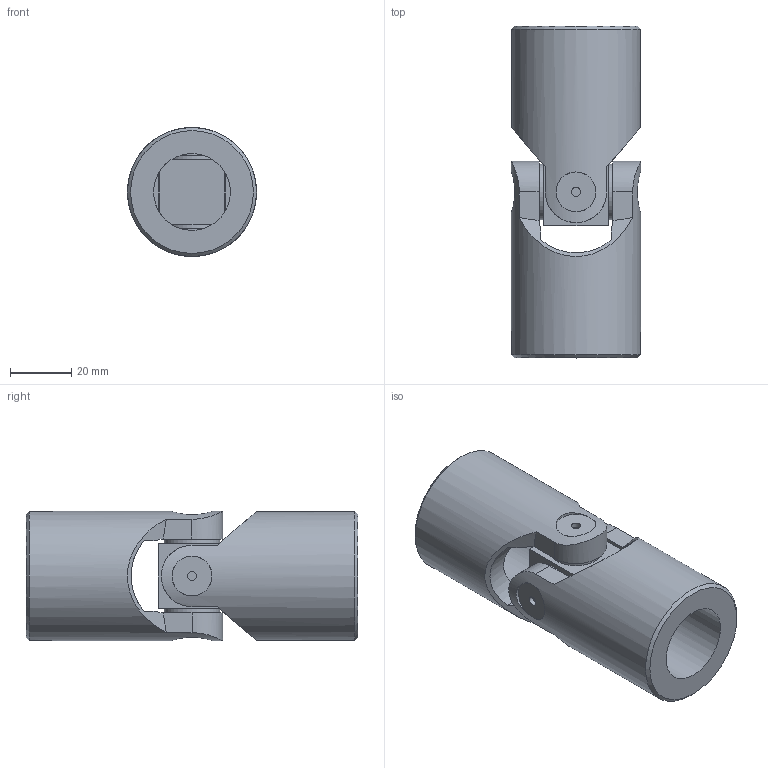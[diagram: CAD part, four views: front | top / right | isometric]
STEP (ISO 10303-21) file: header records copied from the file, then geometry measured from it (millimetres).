
FILE_DESCRIPTION(/* description */ ('EXTENSIBLE TRANSIMISSIONS Series G DIN 808 -2-'),/* implementation_level */ '2;1');
FILE_NAME(/* name */ '\\SRV2016\Societa\Stefano\Disegni 3D\Dis. Clienti\0000Catalogo 3D\01Singoli G-GB\5GB-00_SGBS2500.stp',/* time_stamp */ '2021-11-10T14:47:52+01:00',/* author */ ('acquisti'),/* organization */ ('MARIOFERRI'),/* preprocessor_version */ 'ST-DEVELOPER v15.6',/* originating_system */ 'Autodesk Inventor 2015',/* authorisation */ '');
FILE_SCHEMA (('AUTOMOTIVE_DESIGN { 1 0 10303 214 3 1 1 }'));
Length unit declared in the file: millimetre
Products named in the file (3): 3G SFE; 5GB MOS; Assieme8
Assembly tree (3 placements, depth 2):
  Assieme8
    3G SFE
    5GB MOS  x2
Bounding box: 42 x 108 x 42 mm (x, y, z)
Volume: 93081.2 mm3; surface area: 27304.9 mm2
Topology: 3 solids, 3 shells, 84 faces, 196 edges, 128 vertices
Faces by surface type: plane 40, cylinder 32, cone 10, torus 2
Full cylindrical faces by diameter (mm): 3 x4, 18 x4, 25 x2, 42 x2
Entity records: 1564 total; most frequent: CARTESIAN_POINT 486, DIRECTION 208, ORIENTED_EDGE 198, EDGE_CURVE 99, AXIS2_PLACEMENT_3D 92, VERTEX_POINT 71, EDGE_LOOP 68, FACE_OUTER_BOUND 49
